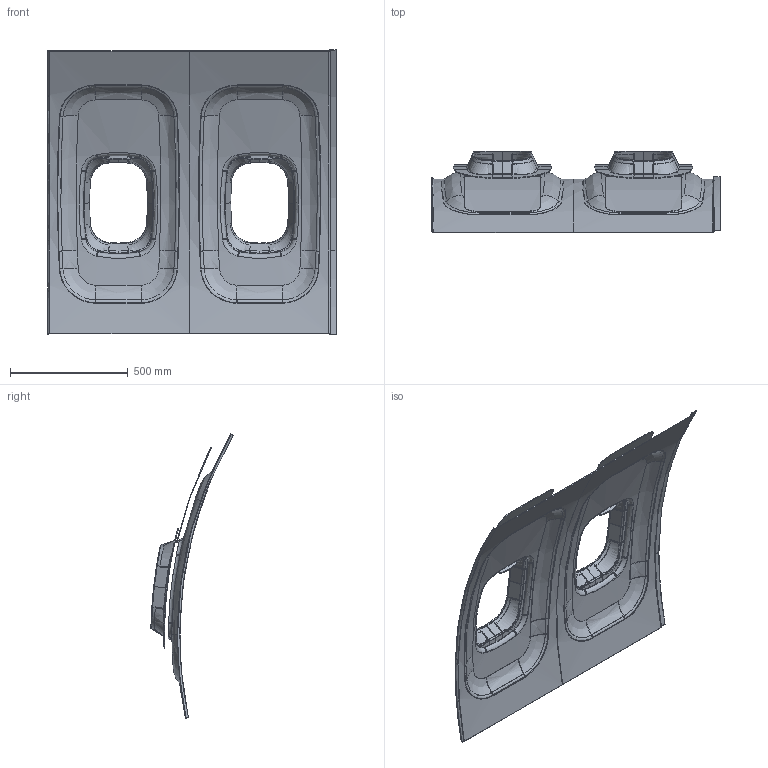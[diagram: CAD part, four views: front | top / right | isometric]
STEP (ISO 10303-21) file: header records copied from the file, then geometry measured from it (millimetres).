
FILE_DESCRIPTION(('Open CASCADE Model'),'2;1');
FILE_NAME('Open CASCADE Shape Model','2026-10-14T17:02:01',('Author'),( 'Open CASCADE'),'Open CASCADE STEP processor 7.8','Open CASCADE 7.8' ,'Unknown');
FILE_SCHEMA(('AUTOMOTIVE_DESIGN { 1 0 10303 214 1 1 1 1 }'));
Length unit declared in the file: millimetre
Products named in the file (8): Tu214_Local_v6_open; Wall_Panel; Cup_1; Shade_1; Handle_1; Cup_2; Shade_2; Handle_2
Assembly tree (7 placements, depth 2):
  Tu214_Local_v6_open
    Wall_Panel
    Cup_1
    Shade_1
    Handle_1
    Cup_2
    Shade_2
    Handle_2
Bounding box: 1225 x 349.01 x 1209.26 mm (x, y, z)
Volume: 5567803.1 mm3; surface area: 3956228 mm2
Topology: 7 solids, 7 shells, 714 faces, 1725 edges, 987 vertices
Faces by surface type: bspline 430, cylinder 156, cone 104, plane 12, offset 8, torus 4
Entity records: 159819 total; most frequent: CARTESIAN_POINT 139799, ORIENTED_EDGE 3370, B_SPLINE_CURVE_WITH_KNOTS 2532, PCURVE 1972, DEFINITIONAL_REPRESENTATION 1972, EDGE_CURVE 1685, DIRECTION 1544, VERTEX_POINT 987
